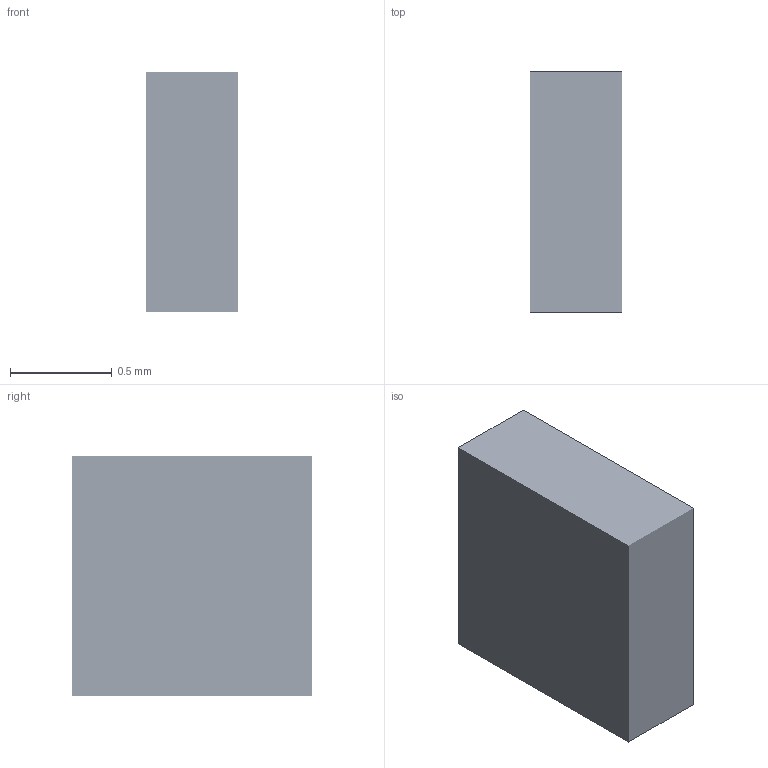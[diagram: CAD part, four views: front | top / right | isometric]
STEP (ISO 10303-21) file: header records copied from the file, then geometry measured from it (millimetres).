
FILE_DESCRIPTION(/* description */ ('STEP AP242 Edition 2','CAx-IF Rec.Pracs.---Representation and Presentation of Product Manufacturing Information (PMI)---4.0---2014-10-13','CAx-IF Rec.Pracs.---3D Tessellated Geometry---0.4---2014-09-14','2;1','CAx-IF Rec.Pracs.---User Defined Attributes---1.5---2016-08-15'),/* implementation_level */ '2;1');
FILE_NAME(/* name */ 'Assembly 1 - Part 71',/* time_stamp */ '2026-03-29T21:14:58Z',/* author */ (''),/* organization */ (''),/* preprocessor_version */ 'ST-DEVELOPER v20',/* originating_system */ 'ONSHAPE BY PTC INC, 1.212',/* authorisation */ ' ');
FILE_SCHEMA (('AP242_MANAGED_MODEL_BASED_3D_ENGINEERING_MIM_LF { 1 0 10303 442 3 1 4 }'));
Length unit declared in the file: metre
Products named in the file (1): Part 71
Bounding box: 0.45 x 1.18 x 1.18 mm (x, y, z)
Surface area: 4.9 mm2 (no closed solid volume)
Topology: 0 solids, 1 shells, 1 faces, 0 edges, 0 vertices
Faces by surface type: other 1
Entity records: 31 total; most frequent: DIRECTION 2, SHAPE_REPRESENTATION_RELATIONSHIP 1, TESSELLATED_SHAPE_REPRESENTATION 1, STYLED_ITEM 1, PRESENTATION_STYLE_ASSIGNMENT 1, SURFACE_STYLE_USAGE 1, SURFACE_SIDE_STYLE 1, SURFACE_STYLE_FILL_AREA 1
